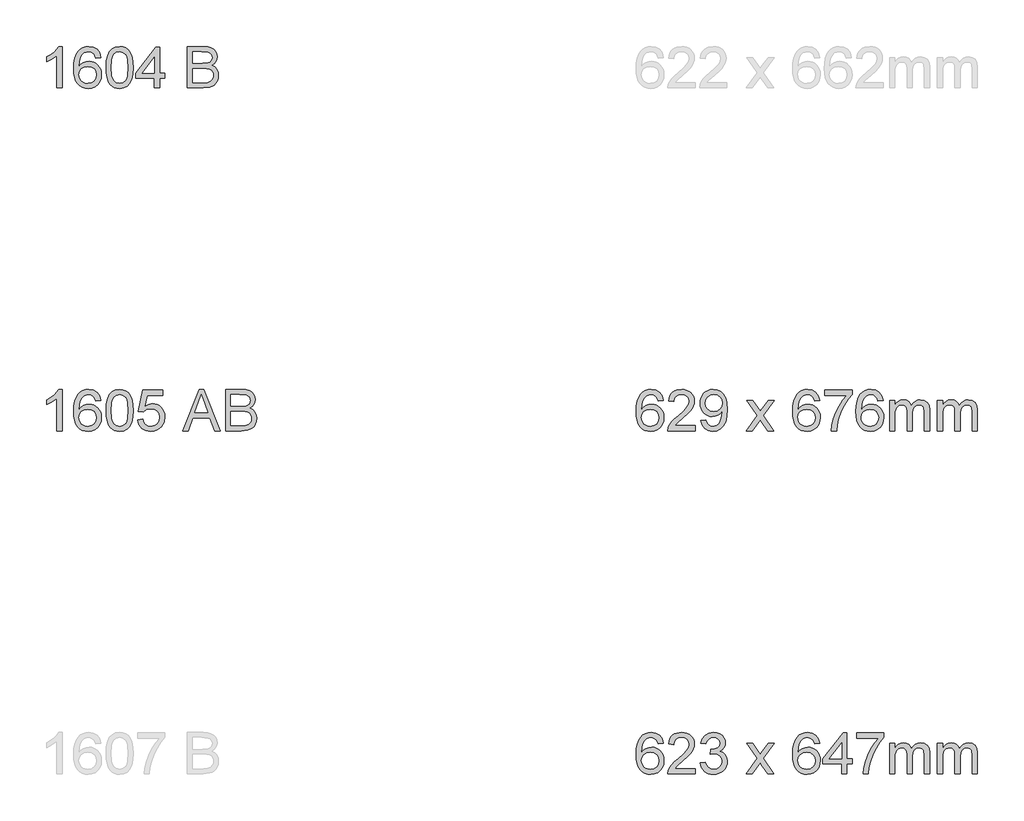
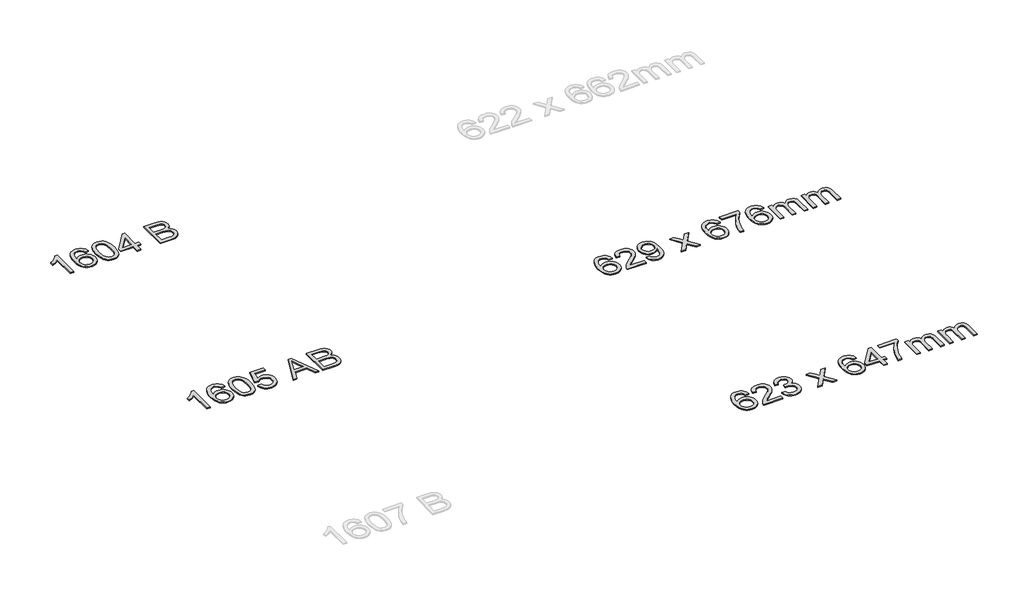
# One storey, part 31 of 39: 4 proxies.
"""IFC4 building model written with IfcOpenShell, lengths in millimetres."""

from ifc_helpers import new_model, si_unit, origin, origin_with_axes, place, context, project, spatial, polyline, outline, extrude, element, save

model = new_model("IFC4")

# Units and contexts
model_context = context("Model", 3, world=origin())
ifc_project = project(units=[si_unit("LENGTHUNIT", "METRE", prefix="MILLI")], contexts=[model_context])

# Site, building, storey
site = spatial("IfcSite", under=ifc_project)
building = spatial("IfcBuilding", under=site)
storey = spatial("IfcBuildingStorey", under=building, Name="Marelli - Linha PROFIT - Planta Baixa", Elevation=0.0)

# Proxies
placement = place(None, origin())
element("IfcBuildingElementProxy", 1, Name="300mm Arial", ObjectType="300mm Arial", at=placement, inside=storey, context=model_context, shape_type="SweptSolid", body=[
    extrude(outline(polyline([(-29517.1779543, 9219.4336799), (-29554.8490706, 9219.4336799), (-29554.8490706, 9454.2895457), (-29590.5336241, 9428.8688998), (-29630.1913032, 9409.8494006), (-29630.1913032, 9445.4603778), (-29600.6043938, 9461.5552151), (-29574.9722158, 9480.7034729), (-29554.7662972, 9501.0657413), (-29541.458166, 9520.8026104), (-29517.1779543, 9520.8026104), (-29517.1779543, 9219.4336799)])), origin_with_axes(), (0.0, 0.0, 1.0), 10.0),
    extrude(outline(polyline([(-29234.644582, 9440.7514882), (-29272.3156983, 9436.0425987), (-29278.3857512, 9454.7126099), (-29286.5895197, 9467.4597211), (-29303.6776384, 9479.2135508), (-29324.3342124, 9483.1314941), (-29341.8453954, 9480.8506257), (-29358.3265088, 9474.0080206), (-29372.4807686, 9459.5962434), (-29384.0414603, 9439.7582068), (-29391.8497556, 9411.6980077), (-29394.7468263, 9372.6197427), (-29379.6360734, 9390.2504873), (-29361.5270821, 9402.6757017), (-29341.4315282, 9410.0425387), (-29320.3610869, 9412.498151), (-29302.2612927, 9410.8196894), (-29285.5594501, 9405.7843046), (-29270.2555591, 9397.3919966), (-29256.3496197, 9385.6427654), (-29244.7935266, 9371.2355867), (-29236.5391743, 9354.8694365), (-29231.5865629, 9336.5443146), (-29229.9356925, 9316.2602211), (-29233.0442953, 9289.2852738), (-29242.3701039, 9264.2784951), (-29257.140566, 9243.0700981), (-29276.5831295, 9227.4902956), (-29299.8148775, 9217.9161667), (-29325.9528932, 9214.7247904), (-29348.4097898, 9216.8401119), (-29368.691584, 9223.1860763), (-29386.798276, 9233.7626836), (-29402.7298656, 9248.5699339), (-29415.7183993, 9268.2332266), (-29424.9959234, 9293.377961), (-29430.5624378, 9324.0041371), (-29432.4179426, 9360.1117549), (-29430.3578034, 9400.5925699), (-29424.1773859, 9435.1412878), (-29413.8766901, 9463.7579085), (-29399.4557159, 9486.442432), (-29383.8253296, 9501.4750101), (-29365.7025428, 9512.2125658), (-29345.0873555, 9518.6550992), (-29321.9797677, 9520.8026104), (-29288.9255704, 9515.4867156), (-29262.4564608, 9499.5390311), (-29243.9152083, 9474.2103557), (-29234.644582, 9440.7514882)]), holes=[polyline([(-29394.7468263, 9316.8488323), (-29392.5671255, 9300.1561867), (-29386.028023, 9284.2176993), (-29375.87448, 9270.514095), (-29362.8514573, 9260.5260988), (-29347.1336991, 9254.4284547), (-29328.8959492, 9252.3959067), (-29304.0363234, 9256.6081555), (-29284.4925924, 9269.2449021), (-29271.8282547, 9289.1105298), (-29267.6068088, 9315.0094223), (-29271.7730724, 9339.8690481), (-29284.2718632, 9358.8241679), (-29304.146688, 9370.826318), (-29330.4410536, 9374.8270347), (-29355.2638912, 9370.826318), (-29376.0216328, 9358.8241679), (-29390.0655279, 9340.3289006), (-29394.7468263, 9316.8488323)])]), origin_with_axes(), (0.0, 0.0, 1.0), 10.0),
    extrude(outline(polyline([(-29196.9734657, 9367.690124), (-29194.2051537, 9415.9286506), (-29185.9002177, 9454.3999103), (-29172.141431, 9483.6925141), (-29153.0115673, 9504.3950734), (-29128.3726707, 9516.7007261), (-29098.0867854, 9520.8026104), (-29074.8734315, 9518.3745892), (-29054.0880988, 9511.0905257), (-29036.7056745, 9499.2355284), (-29023.701046, 9483.0947059), (-29013.8785967, 9462.8060138), (-29006.0427102, 9438.5074081), (-29000.9107564, 9407.6513057), (-28999.2001051, 9367.690124), (-29001.940826, 9319.7275089), (-29010.1629886, 9281.3482197), (-29023.8390017, 9252.0280247), (-29042.9412743, 9231.242692), (-29067.6353533, 9218.8542658), (-29098.0867854, 9214.7247904), (-29118.8353299, 9216.5182151), (-29137.2294297, 9221.8984893), (-29153.2690847, 9230.8656129), (-29166.9542949, 9243.419586), (-29180.0876821, 9266.1133066), (-29189.468673, 9294.3896364), (-29195.0972675, 9328.2485756), (-29196.9734657, 9367.690124)]), holes=[polyline([(-29159.3023494, 9367.7637004), (-29154.8877655, 9308.507108), (-29149.3695355, 9288.2391093), (-29141.6440136, 9274.211309), (-29121.9255387, 9257.8497573), (-29098.0867854, 9252.3959067), (-29074.2480321, 9257.8681514), (-29054.5295572, 9274.2848854), (-29046.8040353, 9288.3356784), (-29041.2858053, 9308.5990785), (-29036.8712214, 9367.7637004), (-29041.1386525, 9425.6867205), (-29046.4729415, 9445.8880406), (-29053.940946, 9460.249234), (-29073.6226327, 9477.410929), (-29098.5282438, 9483.1314941), (-29122.1094797, 9478.0915107), (-29141.0554024, 9462.9715607), (-29149.0384417, 9447.3365759), (-29154.7406127, 9426.2569376), (-29159.3023494, 9367.7637004)])]), origin_with_axes(), (0.0, 0.0, 1.0), 10.0),
    extrude(outline(polyline([(-28843.8067503, 9219.4336799), (-28843.8067503, 9290.067023), (-28980.3645469, 9290.067023), (-28980.3645469, 9327.7381393), (-28834.3889713, 9516.0937208), (-28806.135634, 9516.0937208), (-28806.135634, 9327.7381393), (-28768.4645177, 9327.7381393), (-28768.4645177, 9290.067023), (-28806.135634, 9290.067023), (-28806.135634, 9219.4336799), (-28843.8067503, 9219.4336799)]), holes=[polyline([(-28843.8067503, 9327.7381393), (-28843.8067503, 9444.1360026), (-28934.0114156, 9327.7381393), (-28843.8067503, 9327.7381393)])]), origin_with_axes(), (0.0, 0.0, 1.0), 10.0),
    extrude(outline(polyline([(-28603.6533839, 9219.4336799), (-28603.6533839, 9520.8026104), (-28488.6534722, 9520.8026104), (-28457.0248177, 9518.5861214), (-28432.3307387, 9511.9366543), (-28413.4032101, 9500.6886623), (-28399.0742064, 9484.6765985), (-28390.0519004, 9465.8410403), (-28387.0444651, 9446.1225654), (-28389.5736538, 9427.9767859), (-28397.16122, 9410.9162584), (-28409.8623459, 9395.9894465), (-28427.7322138, 9384.2448138), (-28406.385861, 9373.0979893), (-28390.6129205, 9356.1386293), (-28380.8732447, 9334.4887739), (-28377.626686, 9309.2704632), (-28379.8431751, 9288.2552042), (-28386.4926421, 9268.7666555), (-28396.416259, 9252.1935716), (-28408.4551972, 9239.9247071), (-28423.1980682, 9231.0403569), (-28441.233483, 9224.6208161), (-28489.536389, 9219.4336799), (-28603.6533839, 9219.4336799)]), holes=[polyline([(-28565.9822676, 9398.3714824), (-28497.1883345, 9398.3714824), (-28457.0156206, 9401.6088439), (-28442.9533313, 9407.1914532), (-28432.8457735, 9415.5515716), (-28426.7481295, 9426.5604403), (-28424.7155814, 9440.0893006), (-28426.6101737, 9453.2226879), (-28432.2939505, 9464.6638179), (-28441.5093945, 9473.5941533), (-28453.9989882, 9479.1951567), (-28502.4122588, 9483.1314941), (-28565.9822676, 9483.1314941), (-28565.9822676, 9398.3714824)]), polyline([(-28565.9822676, 9257.1047962), (-28488.7270486, 9257.1047962), (-28460.768017, 9258.5763242), (-28437.1132047, 9266.7800927), (-28421.4414317, 9283.5187235), (-28416.8337097, 9295.3461296), (-28415.2978024, 9308.9025812), (-28417.1004241, 9324.6479306), (-28422.5082895, 9338.185988), (-28431.9536597, 9348.7717924), (-28445.8687962, 9355.6603827), (-28465.578074, 9359.4403702), (-28492.4058685, 9360.7003661), (-28565.9822676, 9360.7003661), (-28565.9822676, 9257.1047962)])]), origin_with_axes(), (0.0, 0.0, 1.0), 10.0),
])
element("IfcBuildingElementProxy", 2, Name="300mm Arial", ObjectType="300mm Arial", at=placement, inside=storey, context=model_context, shape_type="SweptSolid", body=[
    extrude(outline(polyline([(-29517.1779543, 6719.4336799), (-29554.8490706, 6719.4336799), (-29554.8490706, 6954.2895457), (-29590.5336241, 6928.8688998), (-29630.1913032, 6909.8494006), (-29630.1913032, 6945.4603778), (-29600.6043938, 6961.5552151), (-29574.9722158, 6980.7034729), (-29554.7662972, 7001.0657413), (-29541.458166, 7020.8026104), (-29517.1779543, 7020.8026104), (-29517.1779543, 6719.4336799)])), origin_with_axes(), (0.0, 0.0, 1.0), 10.0),
    extrude(outline(polyline([(-29234.644582, 6940.7514882), (-29272.3156983, 6936.0425987), (-29278.3857512, 6954.7126099), (-29286.5895197, 6967.4597211), (-29303.6776384, 6979.2135508), (-29324.3342124, 6983.1314941), (-29341.8453954, 6980.8506257), (-29358.3265088, 6974.0080206), (-29372.4807686, 6959.5962434), (-29384.0414603, 6939.7582068), (-29391.8497556, 6911.6980077), (-29394.7468263, 6872.6197427), (-29379.6360734, 6890.2504873), (-29361.5270821, 6902.6757017), (-29341.4315282, 6910.0425387), (-29320.3610869, 6912.498151), (-29302.2612927, 6910.8196894), (-29285.5594501, 6905.7843046), (-29270.2555591, 6897.3919966), (-29256.3496197, 6885.6427654), (-29244.7935266, 6871.2355867), (-29236.5391743, 6854.8694365), (-29231.5865629, 6836.5443146), (-29229.9356925, 6816.2602211), (-29233.0442953, 6789.2852738), (-29242.3701039, 6764.2784951), (-29257.140566, 6743.0700981), (-29276.5831295, 6727.4902956), (-29299.8148775, 6717.9161667), (-29325.9528932, 6714.7247904), (-29348.4097898, 6716.8401119), (-29368.691584, 6723.1860763), (-29386.798276, 6733.7626836), (-29402.7298656, 6748.5699339), (-29415.7183993, 6768.2332266), (-29424.9959234, 6793.377961), (-29430.5624378, 6824.0041371), (-29432.4179426, 6860.1117549), (-29430.3578034, 6900.5925699), (-29424.1773859, 6935.1412878), (-29413.8766901, 6963.7579085), (-29399.4557159, 6986.442432), (-29383.8253296, 7001.4750101), (-29365.7025428, 7012.2125658), (-29345.0873555, 7018.6550992), (-29321.9797677, 7020.8026104), (-29288.9255704, 7015.4867156), (-29262.4564608, 6999.5390311), (-29243.9152083, 6974.2103557), (-29234.644582, 6940.7514882)]), holes=[polyline([(-29394.7468263, 6816.8488323), (-29392.5671255, 6800.1561867), (-29386.028023, 6784.2176993), (-29375.87448, 6770.514095), (-29362.8514573, 6760.5260988), (-29347.1336991, 6754.4284547), (-29328.8959492, 6752.3959067), (-29304.0363234, 6756.6081555), (-29284.4925924, 6769.2449021), (-29271.8282547, 6789.1105298), (-29267.6068088, 6815.0094223), (-29271.7730724, 6839.8690481), (-29284.2718632, 6858.8241679), (-29304.146688, 6870.826318), (-29330.4410536, 6874.8270347), (-29355.2638912, 6870.826318), (-29376.0216328, 6858.8241679), (-29390.0655279, 6840.3289006), (-29394.7468263, 6816.8488323)])]), origin_with_axes(), (0.0, 0.0, 1.0), 10.0),
    extrude(outline(polyline([(-29196.9734657, 6867.690124), (-29194.2051537, 6915.9286506), (-29185.9002177, 6954.3999103), (-29172.141431, 6983.6925141), (-29153.0115673, 7004.3950734), (-29128.3726707, 7016.7007261), (-29098.0867854, 7020.8026104), (-29074.8734315, 7018.3745892), (-29054.0880988, 7011.0905257), (-29036.7056745, 6999.2355284), (-29023.701046, 6983.0947059), (-29013.8785967, 6962.8060138), (-29006.0427102, 6938.5074081), (-29000.9107564, 6907.6513057), (-28999.2001051, 6867.690124), (-29001.940826, 6819.7275089), (-29010.1629886, 6781.3482197), (-29023.8390017, 6752.0280247), (-29042.9412743, 6731.242692), (-29067.6353533, 6718.8542658), (-29098.0867854, 6714.7247904), (-29118.8353299, 6716.5182151), (-29137.2294297, 6721.8984893), (-29153.2690847, 6730.8656129), (-29166.9542949, 6743.419586), (-29180.0876821, 6766.1133066), (-29189.468673, 6794.3896364), (-29195.0972675, 6828.2485756), (-29196.9734657, 6867.690124)]), holes=[polyline([(-29159.3023494, 6867.7637004), (-29154.8877655, 6808.507108), (-29149.3695355, 6788.2391093), (-29141.6440136, 6774.211309), (-29121.9255387, 6757.8497573), (-29098.0867854, 6752.3959067), (-29074.2480321, 6757.8681514), (-29054.5295572, 6774.2848854), (-29046.8040353, 6788.3356784), (-29041.2858053, 6808.5990785), (-29036.8712214, 6867.7637004), (-29041.1386525, 6925.6867205), (-29046.4729415, 6945.8880406), (-29053.940946, 6960.249234), (-29073.6226327, 6977.410929), (-29098.5282438, 6983.1314941), (-29122.1094797, 6978.0915107), (-29141.0554024, 6962.9715607), (-29149.0384417, 6947.3365759), (-29154.7406127, 6926.2569376), (-29159.3023494, 6867.7637004)])]), origin_with_axes(), (0.0, 0.0, 1.0), 10.0),
    extrude(outline(polyline([(-28966.2378783, 6799.4848021), (-28928.566762, 6804.1936916), (-28921.6505805, 6781.578146), (-28909.5840511, 6765.3821411), (-28892.422356, 6755.6424653), (-28870.2206776, 6752.3959067), (-28843.2181391, 6756.9116582), (-28822.9846294, 6770.4589127), (-28810.3478829, 6791.4741716), (-28806.135634, 6818.3939366), (-28810.0811684, 6843.7410061), (-28821.9177716, 6863.1283872), (-28841.7374141, 6875.43404), (-28869.6320664, 6879.5359242), (-28887.9066045, 6877.8988494), (-28902.7046578, 6872.9876247), (-28923.8578725, 6855.9914765), (-28961.5289888, 6860.7003661), (-28928.566762, 7016.0937208), (-28782.5911863, 7016.0937208), (-28782.5911863, 6978.4226045), (-28898.1061328, 6978.4226045), (-28914.2193642, 6895.4284264), (-28887.3087963, 6911.762387), (-28859.1106413, 6917.2070405), (-28840.7648261, 6915.5193819), (-28823.9135314, 6910.4564059), (-28808.5567574, 6902.0181127), (-28794.694504, 6890.2045021), (-28783.218885, 6875.7375426), (-28775.0220143, 6859.3392027), (-28770.1038919, 6841.0094823), (-28768.4645177, 6820.7483814), (-28774.3690237, 6783.0772651), (-28781.7496563, 6766.283452), (-28792.0825418, 6750.8508023), (-28807.7359207, 6735.0456721), (-28826.0012618, 6723.7562934), (-28846.878565, 6716.9826661), (-28870.3678304, 6714.7247904), (-28907.3675621, 6720.5281289), (-28923.0462328, 6727.782302), (-28936.8441069, 6737.9381443), (-28948.3243244, 6750.4898181), (-28957.0500255, 6764.9314857), (-28966.2378783, 6799.4848021)])), origin_with_axes(), (0.0, 0.0, 1.0), 10.0),
    extrude(outline(polyline([(-28638.7493262, 6719.4336799), (-28518.4519138, 7020.8026104), (-28486.3726038, 7020.8026104), (-28366.0751914, 6719.4336799), (-28405.8800233, 6719.4336799), (-28440.3873544, 6813.6114707), (-28564.5107396, 6813.6114707), (-28598.9444943, 6719.4336799), (-28638.7493262, 6719.4336799)]), holes=[polyline([(-28550.6783766, 6851.282587), (-28454.146141, 6851.282587), (-28481.2958323, 6925.3740208), (-28502.4122588, 6983.1314941), (-28521.1742406, 6931.8487439), (-28550.6783766, 6851.282587)])]), origin_with_axes(), (0.0, 0.0, 1.0), 10.0),
    extrude(outline(polyline([(-28325.8289011, 6719.4336799), (-28325.8289011, 7020.8026104), (-28210.8289894, 7020.8026104), (-28179.2003349, 7018.5861214), (-28154.506256, 7011.9366543), (-28135.5787273, 7000.6886623), (-28121.2497236, 6984.6765985), (-28112.2274177, 6965.8410403), (-28109.2199824, 6946.1225654), (-28111.7491711, 6927.9767859), (-28119.3367372, 6910.9162584), (-28132.0378631, 6895.9894465), (-28149.907731, 6884.2448138), (-28128.5613783, 6873.0979893), (-28112.7884377, 6856.1386293), (-28103.0487619, 6834.4887739), (-28099.8022033, 6809.2704632), (-28102.0186923, 6788.2552042), (-28108.6681594, 6768.7666555), (-28118.5917762, 6752.1935716), (-28130.6307145, 6739.9247071), (-28145.3735854, 6731.0403569), (-28163.4090003, 6724.6208161), (-28211.7119062, 6719.4336799), (-28325.8289011, 6719.4336799)]), holes=[polyline([(-28288.1577848, 6898.3714824), (-28219.3638517, 6898.3714824), (-28179.1911379, 6901.6088439), (-28165.1288486, 6907.1914532), (-28155.0212908, 6915.5515716), (-28148.9236467, 6926.5604403), (-28146.8910987, 6940.0893006), (-28148.7856909, 6953.2226879), (-28154.4694678, 6964.6638179), (-28163.6849118, 6973.5941533), (-28176.1745055, 6979.1951567), (-28224.5877761, 6983.1314941), (-28288.1577848, 6983.1314941), (-28288.1577848, 6898.3714824)]), polyline([(-28288.1577848, 6757.1047962), (-28210.9025658, 6757.1047962), (-28182.9435342, 6758.5763242), (-28159.2887219, 6766.7800927), (-28143.6169489, 6783.5187235), (-28139.0092269, 6795.3461296), (-28137.4733196, 6808.9025812), (-28139.2759414, 6824.6479306), (-28144.6838067, 6838.185988), (-28154.1291769, 6848.7717924), (-28168.0443134, 6855.6603827), (-28187.7535913, 6859.4403702), (-28214.5813858, 6860.7003661), (-28288.1577848, 6860.7003661), (-28288.1577848, 6757.1047962)])]), origin_with_axes(), (0.0, 0.0, 1.0), 10.0),
])
element("IfcBuildingElementProxy", 3, Name="300mm Arial", ObjectType="300mm Arial", at=placement, inside=storey, context=model_context, shape_type="SweptSolid", body=[
    extrude(outline(polyline([(-25136.3969286, 6940.7514882), (-25174.0680449, 6936.0425987), (-25180.1380978, 6954.7126099), (-25188.3418663, 6967.4597211), (-25205.429985, 6979.2135508), (-25226.086559, 6983.1314941), (-25243.597742, 6980.8506257), (-25260.0788554, 6974.0080206), (-25274.2331151, 6959.5962434), (-25285.7938068, 6939.7582068), (-25293.6021022, 6911.6980077), (-25296.4991729, 6872.6197427), (-25281.3884199, 6890.2504873), (-25263.2794287, 6902.6757017), (-25243.1838747, 6910.0425387), (-25222.1134335, 6912.498151), (-25204.0136393, 6910.8196894), (-25187.3117967, 6905.7843046), (-25172.0079057, 6897.3919966), (-25158.1019663, 6885.6427654), (-25146.5458731, 6871.2355867), (-25138.2915209, 6854.8694365), (-25133.3389095, 6836.5443146), (-25131.6880391, 6816.2602211), (-25134.7966419, 6789.2852738), (-25144.1224505, 6764.2784951), (-25158.8929126, 6743.0700981), (-25178.335476, 6727.4902956), (-25201.567224, 6717.9161667), (-25227.7052398, 6714.7247904), (-25250.1621363, 6716.8401119), (-25270.4439306, 6723.1860763), (-25288.5506225, 6733.7626836), (-25304.4822122, 6748.5699339), (-25317.4707459, 6768.2332266), (-25326.7482699, 6793.377961), (-25332.3147844, 6824.0041371), (-25334.1702892, 6860.1117549), (-25332.11015, 6900.5925699), (-25325.9297325, 6935.1412878), (-25315.6290366, 6963.7579085), (-25301.2080624, 6986.442432), (-25285.5776762, 7001.4750101), (-25267.4548894, 7012.2125658), (-25246.8397021, 7018.6550992), (-25223.7321142, 7020.8026104), (-25190.677917, 7015.4867156), (-25164.2088074, 6999.5390311), (-25145.6675549, 6974.2103557), (-25136.3969286, 6940.7514882)]), holes=[polyline([(-25296.4991729, 6816.8488323), (-25294.3194721, 6800.1561867), (-25287.7803696, 6784.2176993), (-25277.6268265, 6770.514095), (-25264.6038039, 6760.5260988), (-25248.8860457, 6754.4284547), (-25230.6482958, 6752.3959067), (-25205.7886699, 6756.6081555), (-25186.2449389, 6769.2449021), (-25173.5806013, 6789.1105298), (-25169.3591554, 6815.0094223), (-25173.525419, 6839.8690481), (-25186.0242097, 6858.8241679), (-25205.8990345, 6870.826318), (-25232.1934001, 6874.8270347), (-25257.0162378, 6870.826318), (-25277.7739793, 6858.8241679), (-25291.8178745, 6840.3289006), (-25296.4991729, 6816.8488323)])]), origin_with_axes(), (0.0, 0.0, 1.0), 10.0),
    extrude(outline(polyline([(-24905.6613412, 6757.1047962), (-24905.6613412, 6719.4336799), (-25103.4347018, 6719.4336799), (-25099.3879999, 6745.4061488), (-25090.0989795, 6765.7040379), (-25076.5057398, 6785.3949217), (-25056.8424471, 6806.0055104), (-25029.343268, 6829.0625145), (-24988.6923075, 6865.1701323), (-24964.3017312, 6891.8231829), (-24952.1064431, 6913.4546442), (-24948.0413471, 6934.4974943), (-24951.8765169, 6953.3606436), (-24963.3820263, 6969.0416137), (-24981.0679532, 6979.609024), (-25003.4443755, 6983.1314941), (-25026.942838, 6979.6917974), (-25045.198982, 6969.3727075), (-25056.9804029, 6952.9835646), (-25061.054696, 6931.3337092), (-25098.7258123, 6936.0425987), (-25089.5931418, 6972.4813103), (-25081.0467832, 6987.0172476), (-25069.8470757, 6999.0975727), (-25056.2515367, 7008.5935267), (-25040.5176836, 7015.376351), (-25002.6350351, 7020.8026104), (-24982.4452114, 7019.2942942), (-24964.4764752, 7014.7693457), (-24948.7288265, 7007.2277648), (-24935.2022654, 6996.6695515), (-24924.3382503, 6983.8764551), (-24916.5782394, 6969.6302249), (-24911.9222329, 6953.9308607), (-24910.3702308, 6936.7783627), (-24912.0440938, 6918.761342), (-24917.0656831, 6901.057021), (-24925.9776244, 6883.0491973), (-24939.3225438, 6864.1216686), (-24960.5953201, 6841.5245171), (-24993.2908325, 6812.5078247), (-25036.6273315, 6776.2714482), (-25053.6234797, 6757.1047962), (-24905.6613412, 6757.1047962)])), origin_with_axes(), (0.0, 0.0, 1.0), 10.0),
    extrude(outline(polyline([(-24863.2813354, 6794.7759125), (-24825.6102191, 6799.4848021), (-24819.1722841, 6778.1016611), (-24808.6876473, 6763.5427312), (-24794.4138259, 6755.1826128), (-24776.6083373, 6752.3959067), (-24760.6330617, 6754.1893314), (-24746.1109199, 6759.5696056), (-24734.0443905, 6767.948118), (-24725.4359518, 6778.7362576), (-24713.1119049, 6811.4777551), (-24707.6672514, 6855.1821362), (-24707.8879806, 6862.5397761), (-24720.9385944, 6846.6104857), (-24738.017516, 6833.9921332), (-24757.8923408, 6825.7699706), (-24779.3306641, 6823.0292498), (-24797.2258239, 6824.7031129), (-24813.6816454, 6829.7247021), (-24828.6981286, 6838.0940175), (-24842.2752734, 6849.811059), (-24853.5255647, 6864.2642229), (-24861.561487, 6880.8419053), (-24866.3830404, 6899.5441062), (-24867.9902249, 6920.3708257), (-24866.3048655, 6941.8919224), (-24861.2487873, 6961.2057272), (-24852.8219904, 6978.3122399), (-24841.0244747, 6993.2114607), (-24826.6885732, 7005.2825887), (-24810.6466189, 7013.904823), (-24792.8986119, 7019.0781635), (-24773.4445521, 7020.8026104), (-24745.3475648, 7016.866273), (-24719.7705691, 7005.057261), (-24698.378231, 6985.9641854), (-24682.8352167, 6960.1756576), (-24673.3714524, 6924.5278922), (-24670.2168643, 6875.8571043), (-24673.3622554, 6824.2524574), (-24682.7984285, 6784.3648521), (-24698.4426104, 6754.3916665), (-24720.2120274, 6732.530279), (-24747.1685806, 6719.1761625), (-24778.3741709, 6714.7247904), (-24810.5822396, 6719.9763059), (-24836.2787969, 6735.7308523), (-24854.2498324, 6760.9951483), (-24863.2813354, 6794.7759125)]), holes=[polyline([(-24707.8879806, 6921.2537425), (-24711.9530767, 6946.784753), (-24724.1483648, 6966.4296515), (-24743.0758934, 6978.9560334), (-24767.337711, 6983.1314941), (-24792.5008395, 6978.6341367), (-24812.6607728, 6965.1420645), (-24825.9045247, 6944.4946875), (-24830.3191086, 6918.5314157), (-24826.143648, 6895.2536825), (-24813.617266, 6876.7768093), (-24793.9539734, 6864.7194769), (-24768.3677806, 6860.7003661), (-24744.2991011, 6864.7194769), (-24724.920917, 6876.7768093), (-24712.1462147, 6895.9342642), (-24707.8879806, 6921.2537425)])]), origin_with_axes(), (0.0, 0.0, 1.0), 10.0),
    extrude(outline(polyline([(-24533.6590677, 6719.4336799), (-24453.1664871, 6830.6811953), (-24528.9501782, 6940.7514882), (-24483.6271163, 6940.7514882), (-24447.059646, 6887.7764809), (-24429.9899215, 6862.7605053), (-24415.2010652, 6883.2147442), (-24373.5568234, 6940.7514882), (-24328.2337616, 6940.7514882), (-24407.8434253, 6830.6811953), (-24331.1768175, 6719.4336799), (-24376.4998794, 6719.4336799), (-24422.6322815, 6786.3146267), (-24431.0935674, 6798.5283089), (-24488.3360059, 6719.4336799), (-24533.6590677, 6719.4336799)])), origin_with_axes(), (0.0, 0.0, 1.0), 10.0),
    extrude(outline(polyline([(-23996.8456603, 6940.7514882), (-24034.5167766, 6936.0425987), (-24040.5868296, 6954.7126099), (-24048.790598, 6967.4597211), (-24065.8787167, 6979.2135508), (-24086.5352908, 6983.1314941), (-24104.0464737, 6980.8506257), (-24120.5275871, 6974.0080206), (-24134.6818469, 6959.5962434), (-24146.2425386, 6939.7582068), (-24154.0508339, 6911.6980077), (-24156.9479046, 6872.6197427), (-24141.8371517, 6890.2504873), (-24123.7281605, 6902.6757017), (-24103.6326065, 6910.0425387), (-24082.5621652, 6912.498151), (-24064.462371, 6910.8196894), (-24047.7605285, 6905.7843046), (-24032.4566375, 6897.3919966), (-24018.550698, 6885.6427654), (-24006.9946049, 6871.2355867), (-23998.7402526, 6854.8694365), (-23993.7876412, 6836.5443146), (-23992.1367708, 6816.2602211), (-23995.2453737, 6789.2852738), (-24004.5711822, 6764.2784951), (-24019.3416443, 6743.0700981), (-24038.7842078, 6727.4902956), (-24062.0159558, 6717.9161667), (-24088.1539715, 6714.7247904), (-24110.6108681, 6716.8401119), (-24130.8926623, 6723.1860763), (-24148.9993543, 6733.7626836), (-24164.9309439, 6748.5699339), (-24177.9194776, 6768.2332266), (-24187.1970017, 6793.377961), (-24192.7635161, 6824.0041371), (-24194.6190209, 6860.1117549), (-24192.5588818, 6900.5925699), (-24186.3784642, 6935.1412878), (-24176.0777684, 6963.7579085), (-24161.6567942, 6986.442432), (-24146.0264079, 7001.4750101), (-24127.9036211, 7012.2125658), (-24107.2884338, 7018.6550992), (-24084.180846, 7020.8026104), (-24051.1266487, 7015.4867156), (-24024.6575392, 6999.5390311), (-24006.1162866, 6974.2103557), (-23996.8456603, 6940.7514882)]), holes=[polyline([(-24156.9479046, 6816.8488323), (-24154.7682038, 6800.1561867), (-24148.2291013, 6784.2176993), (-24138.0755583, 6770.514095), (-24125.0525356, 6760.5260988), (-24109.3347774, 6754.4284547), (-24091.0970275, 6752.3959067), (-24066.2374017, 6756.6081555), (-24046.6936707, 6769.2449021), (-24034.029333, 6789.1105298), (-24029.8078871, 6815.0094223), (-24033.9741507, 6839.8690481), (-24046.4729415, 6858.8241679), (-24066.3477663, 6870.826318), (-24092.6421319, 6874.8270347), (-24117.4649695, 6870.826318), (-24138.2227111, 6858.8241679), (-24152.2666062, 6840.3289006), (-24156.9479046, 6816.8488323)])]), origin_with_axes(), (0.0, 0.0, 1.0), 10.0),
    extrude(outline(polyline([(-23959.174544, 6978.4226045), (-23959.174544, 7016.0937208), (-23761.4011834, 7016.0937208), (-23761.4011834, 6985.6330916), (-23789.5901413, 6949.9577352), (-23817.5031877, 6904.5886881), (-23842.1236902, 6853.6646229), (-23860.4350165, 6801.3242121), (-23869.4113372, 6762.1631737), (-23874.4145323, 6719.4336799), (-23912.0856486, 6719.4336799), (-23908.0113555, 6758.2636245), (-23897.1128514, 6804.4144208), (-23879.6844419, 6853.3335291), (-23856.0204326, 6900.4684098), (-23828.3924947, 6943.0783418), (-23799.0722997, 6978.4226045), (-23959.174544, 6978.4226045)])), origin_with_axes(), (0.0, 0.0, 1.0), 10.0),
    extrude(outline(polyline([(-23535.3744856, 6940.7514882), (-23573.0456019, 6936.0425987), (-23579.1156548, 6954.7126099), (-23587.3194233, 6967.4597211), (-23604.407542, 6979.2135508), (-23625.064116, 6983.1314941), (-23642.575299, 6980.8506257), (-23659.0564124, 6974.0080206), (-23673.2106721, 6959.5962434), (-23684.7713638, 6939.7582068), (-23692.5796592, 6911.6980077), (-23695.4767299, 6872.6197427), (-23680.3659769, 6890.2504873), (-23662.2569857, 6902.6757017), (-23642.1614317, 6910.0425387), (-23621.0909905, 6912.498151), (-23602.9911963, 6910.8196894), (-23586.2893537, 6905.7843046), (-23570.9854627, 6897.3919966), (-23557.0795233, 6885.6427654), (-23545.5234301, 6871.2355867), (-23537.2690779, 6854.8694365), (-23532.3164665, 6836.5443146), (-23530.665596, 6816.2602211), (-23533.7741989, 6789.2852738), (-23543.1000075, 6764.2784951), (-23557.8704696, 6743.0700981), (-23577.313033, 6727.4902956), (-23600.544781, 6717.9161667), (-23626.6827968, 6714.7247904), (-23649.1396933, 6716.8401119), (-23669.4214876, 6723.1860763), (-23687.5281795, 6733.7626836), (-23703.4597692, 6748.5699339), (-23716.4483029, 6768.2332266), (-23725.7258269, 6793.377961), (-23731.2923414, 6824.0041371), (-23733.1478462, 6860.1117549), (-23731.087707, 6900.5925699), (-23724.9072895, 6935.1412878), (-23714.6065936, 6963.7579085), (-23700.1856194, 6986.442432), (-23684.5552331, 7001.4750101), (-23666.4324464, 7012.2125658), (-23645.8172591, 7018.6550992), (-23622.7096712, 7020.8026104), (-23589.655474, 7015.4867156), (-23563.1863644, 6999.5390311), (-23544.6451119, 6974.2103557), (-23535.3744856, 6940.7514882)]), holes=[polyline([(-23695.4767299, 6816.8488323), (-23693.2970291, 6800.1561867), (-23686.7579266, 6784.2176993), (-23676.6043835, 6770.514095), (-23663.5813609, 6760.5260988), (-23647.8636027, 6754.4284547), (-23629.6258527, 6752.3959067), (-23604.7662269, 6756.6081555), (-23585.2224959, 6769.2449021), (-23572.5581582, 6789.1105298), (-23568.3367123, 6815.0094223), (-23572.5029759, 6839.8690481), (-23585.0017667, 6858.8241679), (-23604.8765915, 6870.826318), (-23631.1709571, 6874.8270347), (-23655.9937947, 6870.826318), (-23676.7515363, 6858.8241679), (-23690.7954315, 6840.3289006), (-23695.4767299, 6816.8488323)])]), origin_with_axes(), (0.0, 0.0, 1.0), 10.0),
    extrude(outline(polyline([(-23488.2855902, 6719.4336799), (-23488.2855902, 6940.7514882), (-23450.6144739, 6940.7514882), (-23450.6144739, 6904.3311707), (-23439.2837084, 6921.0606044), (-23424.7155814, 6934.1664005), (-23407.4067336, 6942.6368835), (-23387.8538055, 6945.4603778), (-23366.9029259, 6942.5817012), (-23350.1091128, 6933.9456713), (-23337.5643368, 6920.1225054), (-23329.3605683, 6901.6824203), (-23315.6293728, 6920.8352767), (-23299.9667969, 6934.5158884), (-23282.3728404, 6942.7242554), (-23262.8475036, 6945.4603778), (-23234.529787, 6940.9078381), (-23213.5881044, 6927.250219), (-23200.6478552, 6904.1196386), (-23196.3344388, 6871.1482147), (-23196.3344388, 6719.4336799), (-23234.0055551, 6719.4336799), (-23234.0055551, 6854.961407), (-23237.5004341, 6886.4153175), (-23242.4116587, 6895.0881356), (-23250.1555747, 6901.9031495), (-23260.1159797, 6906.3177335), (-23271.6766714, 6907.7892615), (-23292.0849251, 6904.018471), (-23308.7223884, 6892.7060997), (-23319.7864394, 6873.0795952), (-23323.4744564, 6844.3664055), (-23323.4744564, 6719.4336799), (-23361.1455727, 6719.4336799), (-23361.1455727, 6859.1552617), (-23363.3252735, 6880.4556292), (-23369.864376, 6895.6491556), (-23381.3698853, 6904.754235), (-23398.448807, 6907.7892615), (-23412.9617517, 6905.7659105), (-23426.3342622, 6899.6958576), (-23437.3707221, 6889.7262555), (-23444.8755148, 6876.0042571), (-23449.1797341, 6856.9663638), (-23450.6144739, 6831.0490773), (-23450.6144739, 6719.4336799), (-23488.2855902, 6719.4336799)])), origin_with_axes(), (0.0, 0.0, 1.0), 10.0),
    extrude(outline(polyline([(-23139.8277644, 6719.4336799), (-23139.8277644, 6940.7514882), (-23102.1566481, 6940.7514882), (-23102.1566481, 6904.3311707), (-23090.8258826, 6921.0606044), (-23076.2577556, 6934.1664005), (-23058.9489077, 6942.6368835), (-23039.3959797, 6945.4603778), (-23018.4451001, 6942.5817012), (-23001.651287, 6933.9456713), (-22989.1065109, 6920.1225054), (-22980.9027425, 6901.6824203), (-22967.171547, 6920.8352767), (-22951.508971, 6934.5158884), (-22933.9150146, 6942.7242554), (-22914.3896777, 6945.4603778), (-22886.0719611, 6940.9078381), (-22865.1302786, 6927.250219), (-22852.1900294, 6904.1196386), (-22847.876613, 6871.1482147), (-22847.876613, 6719.4336799), (-22885.5477293, 6719.4336799), (-22885.5477293, 6854.961407), (-22889.0426083, 6886.4153175), (-22893.9538329, 6895.0881356), (-22901.6977489, 6901.9031495), (-22911.6581539, 6906.3177335), (-22923.2188456, 6907.7892615), (-22943.6270993, 6904.018471), (-22960.2645625, 6892.7060997), (-22971.3286135, 6873.0795952), (-22975.0166305, 6844.3664055), (-22975.0166305, 6719.4336799), (-23012.6877468, 6719.4336799), (-23012.6877468, 6859.1552617), (-23014.8674477, 6880.4556292), (-23021.4065501, 6895.6491556), (-23032.9120595, 6904.754235), (-23049.9909811, 6907.7892615), (-23064.5039259, 6905.7659105), (-23077.8764364, 6899.6958576), (-23088.9128962, 6889.7262555), (-23096.4176889, 6876.0042571), (-23100.7219083, 6856.9663638), (-23102.1566481, 6831.0490773), (-23102.1566481, 6719.4336799), (-23139.8277644, 6719.4336799)])), origin_with_axes(), (0.0, 0.0, 1.0), 10.0),
])
element("IfcBuildingElementProxy", 4, Name="300mm Arial", ObjectType="300mm Arial", at=placement, inside=storey, context=model_context, shape_type="SweptSolid", body=[
    extrude(outline(polyline([(-25136.3969286, 4440.7514882), (-25174.0680449, 4436.0425987), (-25180.1380978, 4454.7126099), (-25188.3418663, 4467.4597211), (-25205.429985, 4479.2135508), (-25226.086559, 4483.1314941), (-25243.597742, 4480.8506257), (-25260.0788554, 4474.0080206), (-25274.2331151, 4459.5962434), (-25285.7938068, 4439.7582068), (-25293.6021022, 4411.6980077), (-25296.4991729, 4372.6197427), (-25281.3884199, 4390.2504873), (-25263.2794287, 4402.6757017), (-25243.1838747, 4410.0425387), (-25222.1134335, 4412.498151), (-25204.0136393, 4410.8196894), (-25187.3117967, 4405.7843046), (-25172.0079057, 4397.3919966), (-25158.1019663, 4385.6427654), (-25146.5458731, 4371.2355867), (-25138.2915209, 4354.8694365), (-25133.3389095, 4336.5443146), (-25131.6880391, 4316.2602211), (-25134.7966419, 4289.2852738), (-25144.1224505, 4264.2784951), (-25158.8929126, 4243.0700981), (-25178.335476, 4227.4902956), (-25201.567224, 4217.9161667), (-25227.7052398, 4214.7247904), (-25250.1621363, 4216.8401119), (-25270.4439306, 4223.1860763), (-25288.5506225, 4233.7626836), (-25304.4822122, 4248.5699339), (-25317.4707459, 4268.2332266), (-25326.7482699, 4293.377961), (-25332.3147844, 4324.0041371), (-25334.1702892, 4360.1117549), (-25332.11015, 4400.5925699), (-25325.9297325, 4435.1412878), (-25315.6290366, 4463.7579085), (-25301.2080624, 4486.442432), (-25285.5776762, 4501.4750101), (-25267.4548894, 4512.2125658), (-25246.8397021, 4518.6550992), (-25223.7321142, 4520.8026104), (-25190.677917, 4515.4867156), (-25164.2088074, 4499.5390311), (-25145.6675549, 4474.2103557), (-25136.3969286, 4440.7514882)]), holes=[polyline([(-25296.4991729, 4316.8488323), (-25294.3194721, 4300.1561867), (-25287.7803696, 4284.2176993), (-25277.6268265, 4270.514095), (-25264.6038039, 4260.5260988), (-25248.8860457, 4254.4284547), (-25230.6482958, 4252.3959067), (-25205.7886699, 4256.6081555), (-25186.2449389, 4269.2449021), (-25173.5806013, 4289.1105298), (-25169.3591554, 4315.0094223), (-25173.525419, 4339.8690481), (-25186.0242097, 4358.8241679), (-25205.8990345, 4370.826318), (-25232.1934001, 4374.8270347), (-25257.0162378, 4370.826318), (-25277.7739793, 4358.8241679), (-25291.8178745, 4340.3289006), (-25296.4991729, 4316.8488323)])]), origin_with_axes(), (0.0, 0.0, 1.0), 10.0),
    extrude(outline(polyline([(-24905.6613412, 4257.1047962), (-24905.6613412, 4219.4336799), (-25103.4347018, 4219.4336799), (-25099.3879999, 4245.4061488), (-25090.0989795, 4265.7040379), (-25076.5057398, 4285.3949217), (-25056.8424471, 4306.0055104), (-25029.343268, 4329.0625145), (-24988.6923075, 4365.1701323), (-24964.3017312, 4391.8231829), (-24952.1064431, 4413.4546442), (-24948.0413471, 4434.4974943), (-24951.8765169, 4453.3606436), (-24963.3820263, 4469.0416137), (-24981.0679532, 4479.609024), (-25003.4443755, 4483.1314941), (-25026.942838, 4479.6917974), (-25045.198982, 4469.3727075), (-25056.9804029, 4452.9835646), (-25061.054696, 4431.3337092), (-25098.7258123, 4436.0425987), (-25089.5931418, 4472.4813103), (-25081.0467832, 4487.0172476), (-25069.8470757, 4499.0975727), (-25056.2515367, 4508.5935267), (-25040.5176836, 4515.376351), (-25002.6350351, 4520.8026104), (-24982.4452114, 4519.2942942), (-24964.4764752, 4514.7693457), (-24948.7288265, 4507.2277648), (-24935.2022654, 4496.6695515), (-24924.3382503, 4483.8764551), (-24916.5782394, 4469.6302249), (-24911.9222329, 4453.9308607), (-24910.3702308, 4436.7783627), (-24912.0440938, 4418.761342), (-24917.0656831, 4401.057021), (-24925.9776244, 4383.0491973), (-24939.3225438, 4364.1216686), (-24960.5953201, 4341.5245171), (-24993.2908325, 4312.5078247), (-25036.6273315, 4276.2714482), (-25053.6234797, 4257.1047962), (-24905.6613412, 4257.1047962)])), origin_with_axes(), (0.0, 0.0, 1.0), 10.0),
    extrude(outline(polyline([(-24867.9902249, 4299.4848021), (-24830.3191086, 4304.1936916), (-24821.8854139, 4280.5204852), (-24809.5337759, 4264.5360125), (-24792.6571893, 4255.4309332), (-24770.648649, 4252.3959067), (-24744.8233329, 4256.5713673), (-24724.8841288, 4269.0977493), (-24712.1370177, 4287.7861546), (-24707.8879806, 4310.4476855), (-24712.1002295, 4331.9595852), (-24724.736976, 4349.4063888), (-24743.8668397, 4360.9670805), (-24767.5584402, 4364.8206444), (-24793.9723675, 4360.7003661), (-24789.7785127, 4398.3714824), (-24783.745248, 4397.930024), (-24761.1756876, 4400.6339567), (-24740.9973602, 4408.7457546), (-24726.760327, 4422.4677531), (-24722.0146492, 4442.002287), (-24725.4543459, 4458.2718683), (-24735.7734358, 4471.4696348), (-24751.5187852, 4480.2160293), (-24771.2372602, 4483.1314941), (-24790.9925233, 4480.1884381), (-24807.1425429, 4471.3592702), (-24818.9331609, 4456.6439904), (-24825.6102191, 4436.0425987), (-24863.2813354, 4440.7514882), (-24852.1896932, 4474.5782377), (-24832.4528242, 4499.8333367), (-24805.4502857, 4515.5602919), (-24772.5616354, 4520.8026104), (-24748.8792319, 4518.2182394), (-24727.128209, 4510.4651263), (-24708.7892915, 4498.23305), (-24695.3432046, 4482.2117891), (-24687.0934508, 4463.75331), (-24684.3435329, 4444.209579), (-24686.9554951, 4425.9994202), (-24694.7913816, 4409.4815186), (-24707.7408278, 4395.4100323), (-24725.6934692, 4384.5391194), (-24702.1122333, 4375.0109757), (-24684.6378385, 4358.7873797), (-24673.8221079, 4336.7512482), (-24670.2168643, 4309.7854979), (-24672.0194861, 4290.6740283), (-24677.4273514, 4273.0708748), (-24686.4404603, 4256.9760375), (-24699.0588127, 4242.3895164), (-24714.4316816, 4230.2861988), (-24731.7083398, 4221.6409719), (-24750.8887873, 4216.4538358), (-24771.9730242, 4214.7247904), (-24791.0293115, 4216.2009169), (-24808.3933417, 4220.6292964), (-24824.0651147, 4228.0099289), (-24838.0446305, 4238.3428145), (-24849.7662706, 4251.0209477), (-24858.6644163, 4265.4373234), (-24864.7390678, 4281.5919415), (-24867.9902249, 4299.4848021)])), origin_with_axes(), (0.0, 0.0, 1.0), 10.0),
    extrude(outline(polyline([(-24533.6590677, 4219.4336799), (-24453.1664871, 4330.6811953), (-24528.9501782, 4440.7514882), (-24483.6271163, 4440.7514882), (-24447.059646, 4387.7764809), (-24429.9899215, 4362.7605053), (-24415.2010652, 4383.2147442), (-24373.5568234, 4440.7514882), (-24328.2337616, 4440.7514882), (-24407.8434253, 4330.6811953), (-24331.1768175, 4219.4336799), (-24376.4998794, 4219.4336799), (-24422.6322815, 4286.3146267), (-24431.0935674, 4298.5283089), (-24488.3360059, 4219.4336799), (-24533.6590677, 4219.4336799)])), origin_with_axes(), (0.0, 0.0, 1.0), 10.0),
    extrude(outline(polyline([(-23996.8456603, 4440.7514882), (-24034.5167766, 4436.0425987), (-24040.5868296, 4454.7126099), (-24048.790598, 4467.4597211), (-24065.8787167, 4479.2135508), (-24086.5352908, 4483.1314941), (-24104.0464737, 4480.8506257), (-24120.5275871, 4474.0080206), (-24134.6818469, 4459.5962434), (-24146.2425386, 4439.7582068), (-24154.0508339, 4411.6980077), (-24156.9479046, 4372.6197427), (-24141.8371517, 4390.2504873), (-24123.7281605, 4402.6757017), (-24103.6326065, 4410.0425387), (-24082.5621652, 4412.498151), (-24064.462371, 4410.8196894), (-24047.7605285, 4405.7843046), (-24032.4566375, 4397.3919966), (-24018.550698, 4385.6427654), (-24006.9946049, 4371.2355867), (-23998.7402526, 4354.8694365), (-23993.7876412, 4336.5443146), (-23992.1367708, 4316.2602211), (-23995.2453737, 4289.2852738), (-24004.5711822, 4264.2784951), (-24019.3416443, 4243.0700981), (-24038.7842078, 4227.4902956), (-24062.0159558, 4217.9161667), (-24088.1539715, 4214.7247904), (-24110.6108681, 4216.8401119), (-24130.8926623, 4223.1860763), (-24148.9993543, 4233.7626836), (-24164.9309439, 4248.5699339), (-24177.9194776, 4268.2332266), (-24187.1970017, 4293.377961), (-24192.7635161, 4324.0041371), (-24194.6190209, 4360.1117549), (-24192.5588818, 4400.5925699), (-24186.3784642, 4435.1412878), (-24176.0777684, 4463.7579085), (-24161.6567942, 4486.442432), (-24146.0264079, 4501.4750101), (-24127.9036211, 4512.2125658), (-24107.2884338, 4518.6550992), (-24084.180846, 4520.8026104), (-24051.1266487, 4515.4867156), (-24024.6575392, 4499.5390311), (-24006.1162866, 4474.2103557), (-23996.8456603, 4440.7514882)]), holes=[polyline([(-24156.9479046, 4316.8488323), (-24154.7682038, 4300.1561867), (-24148.2291013, 4284.2176993), (-24138.0755583, 4270.514095), (-24125.0525356, 4260.5260988), (-24109.3347774, 4254.4284547), (-24091.0970275, 4252.3959067), (-24066.2374017, 4256.6081555), (-24046.6936707, 4269.2449021), (-24034.029333, 4289.1105298), (-24029.8078871, 4315.0094223), (-24033.9741507, 4339.8690481), (-24046.4729415, 4358.8241679), (-24066.3477663, 4370.826318), (-24092.6421319, 4374.8270347), (-24117.4649695, 4370.826318), (-24138.2227111, 4358.8241679), (-24152.2666062, 4340.3289006), (-24156.9479046, 4316.8488323)])]), origin_with_axes(), (0.0, 0.0, 1.0), 10.0),
    extrude(outline(polyline([(-23836.743416, 4219.4336799), (-23836.743416, 4290.067023), (-23973.3012126, 4290.067023), (-23973.3012126, 4327.7381393), (-23827.325637, 4516.0937208), (-23799.0722997, 4516.0937208), (-23799.0722997, 4327.7381393), (-23761.4011834, 4327.7381393), (-23761.4011834, 4290.067023), (-23799.0722997, 4290.067023), (-23799.0722997, 4219.4336799), (-23836.743416, 4219.4336799)]), holes=[polyline([(-23836.743416, 4327.7381393), (-23836.743416, 4444.1360026), (-23926.9480812, 4327.7381393), (-23836.743416, 4327.7381393)])]), origin_with_axes(), (0.0, 0.0, 1.0), 10.0),
    extrude(outline(polyline([(-23728.4389566, 4478.4226045), (-23728.4389566, 4516.0937208), (-23530.665596, 4516.0937208), (-23530.665596, 4485.6330916), (-23558.8545539, 4449.9577352), (-23586.7676003, 4404.5886881), (-23611.3881028, 4353.6646229), (-23629.6994291, 4301.3242121), (-23638.6757498, 4262.1631737), (-23643.678945, 4219.4336799), (-23681.3500613, 4219.4336799), (-23677.2757682, 4258.2636245), (-23666.3772641, 4304.4144208), (-23648.9488545, 4353.3335291), (-23625.2848452, 4400.4684098), (-23597.6569074, 4443.0783418), (-23568.3367123, 4478.4226045), (-23728.4389566, 4478.4226045)])), origin_with_axes(), (0.0, 0.0, 1.0), 10.0),
    extrude(outline(polyline([(-23488.2855902, 4219.4336799), (-23488.2855902, 4440.7514882), (-23450.6144739, 4440.7514882), (-23450.6144739, 4404.3311707), (-23439.2837084, 4421.0606044), (-23424.7155814, 4434.1664005), (-23407.4067336, 4442.6368835), (-23387.8538055, 4445.4603778), (-23366.9029259, 4442.5817012), (-23350.1091128, 4433.9456713), (-23337.5643368, 4420.1225054), (-23329.3605683, 4401.6824203), (-23315.6293728, 4420.8352767), (-23299.9667969, 4434.5158884), (-23282.3728404, 4442.7242554), (-23262.8475036, 4445.4603778), (-23234.529787, 4440.9078381), (-23213.5881044, 4427.250219), (-23200.6478552, 4404.1196386), (-23196.3344388, 4371.1482147), (-23196.3344388, 4219.4336799), (-23234.0055551, 4219.4336799), (-23234.0055551, 4354.961407), (-23237.5004341, 4386.4153175), (-23242.4116587, 4395.0881356), (-23250.1555747, 4401.9031495), (-23260.1159797, 4406.3177335), (-23271.6766714, 4407.7892615), (-23292.0849251, 4404.018471), (-23308.7223884, 4392.7060997), (-23319.7864394, 4373.0795952), (-23323.4744564, 4344.3664055), (-23323.4744564, 4219.4336799), (-23361.1455727, 4219.4336799), (-23361.1455727, 4359.1552617), (-23363.3252735, 4380.4556292), (-23369.864376, 4395.6491556), (-23381.3698853, 4404.754235), (-23398.448807, 4407.7892615), (-23412.9617517, 4405.7659105), (-23426.3342622, 4399.6958576), (-23437.3707221, 4389.7262555), (-23444.8755148, 4376.0042571), (-23449.1797341, 4356.9663638), (-23450.6144739, 4331.0490773), (-23450.6144739, 4219.4336799), (-23488.2855902, 4219.4336799)])), origin_with_axes(), (0.0, 0.0, 1.0), 10.0),
    extrude(outline(polyline([(-23139.8277644, 4219.4336799), (-23139.8277644, 4440.7514882), (-23102.1566481, 4440.7514882), (-23102.1566481, 4404.3311707), (-23090.8258826, 4421.0606044), (-23076.2577556, 4434.1664005), (-23058.9489077, 4442.6368835), (-23039.3959797, 4445.4603778), (-23018.4451001, 4442.5817012), (-23001.651287, 4433.9456713), (-22989.1065109, 4420.1225054), (-22980.9027425, 4401.6824203), (-22967.171547, 4420.8352767), (-22951.508971, 4434.5158884), (-22933.9150146, 4442.7242554), (-22914.3896777, 4445.4603778), (-22886.0719611, 4440.9078381), (-22865.1302786, 4427.250219), (-22852.1900294, 4404.1196386), (-22847.876613, 4371.1482147), (-22847.876613, 4219.4336799), (-22885.5477293, 4219.4336799), (-22885.5477293, 4354.961407), (-22889.0426083, 4386.4153175), (-22893.9538329, 4395.0881356), (-22901.6977489, 4401.9031495), (-22911.6581539, 4406.3177335), (-22923.2188456, 4407.7892615), (-22943.6270993, 4404.018471), (-22960.2645625, 4392.7060997), (-22971.3286135, 4373.0795952), (-22975.0166305, 4344.3664055), (-22975.0166305, 4219.4336799), (-23012.6877468, 4219.4336799), (-23012.6877468, 4359.1552617), (-23014.8674477, 4380.4556292), (-23021.4065501, 4395.6491556), (-23032.9120595, 4404.754235), (-23049.9909811, 4407.7892615), (-23064.5039259, 4405.7659105), (-23077.8764364, 4399.6958576), (-23088.9128962, 4389.7262555), (-23096.4176889, 4376.0042571), (-23100.7219083, 4356.9663638), (-23102.1566481, 4331.0490773), (-23102.1566481, 4219.4336799), (-23139.8277644, 4219.4336799)])), origin_with_axes(), (0.0, 0.0, 1.0), 10.0),
])

save(model, "model.ifc")
